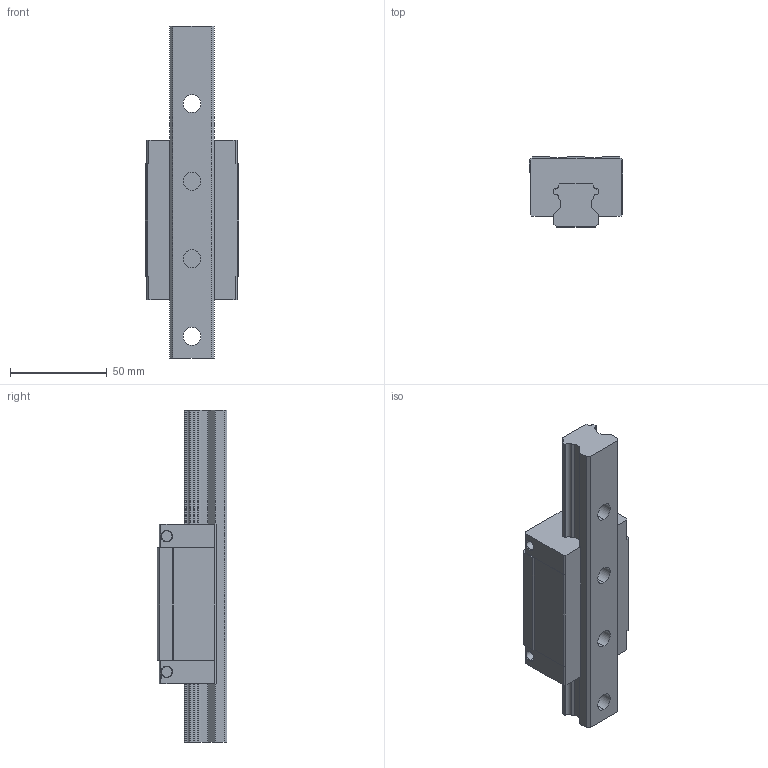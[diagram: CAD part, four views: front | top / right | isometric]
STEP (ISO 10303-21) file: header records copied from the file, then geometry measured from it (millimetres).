
FILE_DESCRIPTION (( 'STEP AP214' ), '1' );
FILE_NAME ('2.1033 Lineaarikelkka HGL25CA.STEP', '2024-04-25T06:01:52', ( '' ), ( '' ), 'SwSTEP 2.0', 'SolidWorks 2024', '' );
FILE_SCHEMA (( 'AUTOMOTIVE_DESIGN' ));
Length unit declared in the file: millimetre
Products named in the file (1): 2.1033 Lineaarikelkka HGL25CA
Bounding box: 48 x 36 x 171.14 mm (x, y, z)
Volume: 158297.9 mm3; surface area: 37491.6 mm2
Topology: 2 solids, 3 shells, 129 faces, 360 edges, 236 vertices
Faces by surface type: plane 85, cylinder 36, cone 8
Entity records: 5456 total; most frequent: CARTESIAN_POINT 701, ORIENTED_EDGE 688, DIRECTION 686, EDGE_CURVE 344, VECTOR 260, LINE 260, VERTEX_POINT 228, AXIS2_PLACEMENT_3D 213
